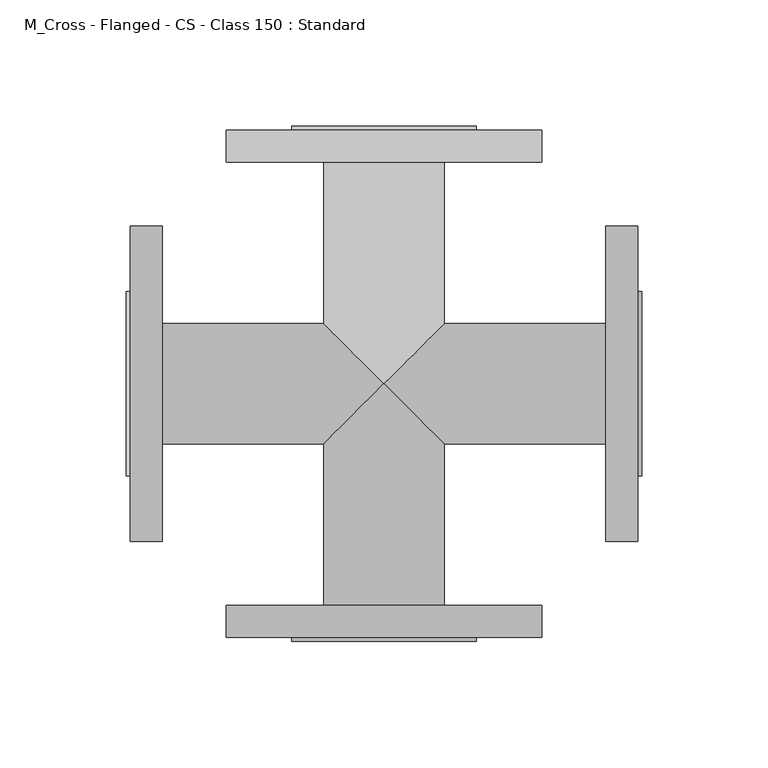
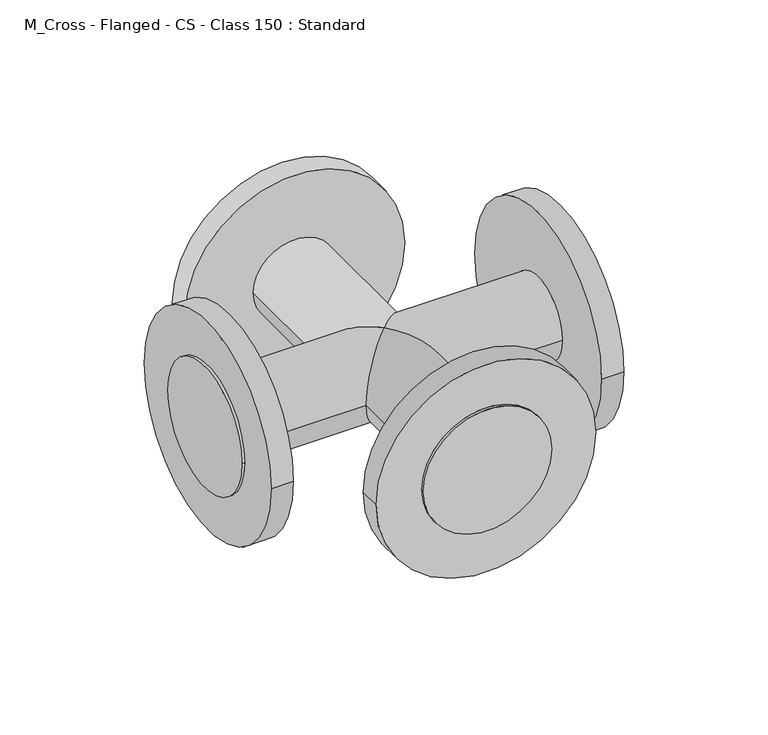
"""IFC4 building model written with IfcOpenShell, lengths in millimetres: pipe fitting geometry, M_Cross - Flanged - CS - Class 150 : Standard."""

import ifcopenshell
import ifcopenshell.guid

model = None  # the IFC model being written
_history = None  # IfcOwnerHistory: only IFC2X3 demands one
_inside = {}  # id of a spatial element -> (the spatial element, [elements in it])
_under = {}  # id of a project, library or spatial element -> (it, [spatial elements below it])
_declared = {}  # id of a project -> (the project, [libraries it declares])
_typed = {}  # id of a type object -> (the type object, [elements of that type])
_made_of = {}  # id of a material, layer set ... -> (it, [elements and type objects made of it])


def new_model(schema):
    """Start an empty IFC model of exactly this schema.

    Asked for "IFC4X3", IfcOpenShell would pick the latest addendum, in which some entities
    have other attributes; the version numbers below select the first issue.
    IFC2X3 requires an IfcOwnerHistory on every rooted entity: one is made here for all.
    """
    global model, _history
    if schema == "IFC4X3":
        model = ifcopenshell.file(schema_version=(4, 3, 0, 0))
    else:
        model = ifcopenshell.file(schema=schema)
    _inside.clear()
    _under.clear()
    _declared.clear()
    _typed.clear()
    _made_of.clear()
    _history = None
    if model.schema == "IFC2X3":
        org = make("IfcOrganization", Name="unknown")
        user = make(
            "IfcPersonAndOrganization",
            ThePerson=make("IfcPerson", FamilyName="unknown"),
            TheOrganization=org,
        )
        app = make(
            "IfcApplication",
            ApplicationDeveloper=org,
            Version="unknown",
            ApplicationFullName="unknown",
            ApplicationIdentifier="unknown",
        )
        _history = make(
            "IfcOwnerHistory",
            OwningUser=user,
            OwningApplication=app,
            ChangeAction="ADDED",
            CreationDate=0,
        )
    return model


def make(cls, **values):
    """One entity of the class cls with the attributes given. An attribute that is None is left unset."""
    return model.create_entity(
        cls, **{name: value for name, value in values.items() if value is not None}
    )


def rooted(cls, **values):
    """An entity with a GlobalId (a new one), such as an element, a storey or a relation."""
    return make(cls, GlobalId=ifcopenshell.guid.new(), OwnerHistory=_history, **values)


def si_unit(unit_type, name, prefix=None):
    """IfcSIUnit, for example si_unit("LENGTHUNIT", "METRE", prefix="MILLI")."""
    return make("IfcSIUnit", UnitType=unit_type, Prefix=prefix, Name=name)


def assignment(units):
    """IfcUnitAssignment: the units of a project."""
    return None if units is None else make("IfcUnitAssignment", Units=units)


def point(xyz):
    """IfcCartesianPoint."""
    return None if xyz is None else make("IfcCartesianPoint", Coordinates=xyz)


def direction(xyz):
    """IfcDirection."""
    return None if xyz is None else make("IfcDirection", DirectionRatios=xyz)


def frame(location, z_axis=None, x_axis=None):
    """IfcAxis2Placement3D, a coordinate frame: its origin and axes. An axis left out is left unset."""
    return make(
        "IfcAxis2Placement3D",
        Location=point(location),
        Axis=direction(z_axis),
        RefDirection=direction(x_axis),
    )


def origin():
    """The frame at (0, 0, 0) with its axes left unset."""
    return frame((0.0, 0.0, 0.0))


def place(relative_to, where):
    """IfcLocalPlacement: puts the frame where relative to a parent placement (None: the world)."""
    return make(
        "IfcLocalPlacement", PlacementRelTo=relative_to, RelativePlacement=where
    )


def context(
    kind, dimensions, precision=None, world=None, true_north=None, identifier=None
):
    """IfcGeometricRepresentationContext, for example the 3D "Model" context."""
    return make(
        "IfcGeometricRepresentationContext",
        ContextIdentifier=identifier,
        ContextType=kind,
        CoordinateSpaceDimension=dimensions,
        Precision=precision,
        WorldCoordinateSystem=world,
        TrueNorth=true_north,
    )


def project(units=None, contexts=None):
    """IfcProject with its units and contexts."""
    return rooted(
        "IfcProject",
        Name="project",
        RepresentationContexts=contexts,
        UnitsInContext=assignment(units),
    )


def spatial(cls, under=None, at=None, **own):
    """A site, building, storey or space (cls), placed at a placement, below another one or the project."""
    s = rooted(cls, ObjectPlacement=at, **own)
    if under is not None:
        _under.setdefault(under.id(), (under, []))[1].append(s)
    return s


def circle_curve(where, radius):
    """IfcCircle in the frame where."""
    return make("IfcCircle", Position=where, Radius=radius)


def ellipse_curve(where, semi_axis1, semi_axis2):
    """IfcEllipse in the frame where."""
    return make(
        "IfcEllipse", Position=where, SemiAxis1=semi_axis1, SemiAxis2=semi_axis2
    )


def shape(context_of_items, identifier, shape_type, items):
    """IfcShapeRepresentation: the items that make up one representation, for example the "Body"."""
    return make(
        "IfcShapeRepresentation",
        ContextOfItems=context_of_items,
        RepresentationIdentifier=identifier,
        RepresentationType=shape_type,
        Items=items,
    )


def source(mapping_origin, context_of_items, identifier, shape_type, items):
    """IfcRepresentationMap: a shape defined once, which mapped items show again and again."""
    return make(
        "IfcRepresentationMap",
        MappingOrigin=mapping_origin,
        MappedRepresentation=shape(context_of_items, identifier, shape_type, items),
    )


def transform(
    local_origin,
    x_axis=None,
    y_axis=None,
    z_axis=None,
    scale=None,
    scale2=None,
    scale3=None,
    uniform=True,
):
    """IfcCartesianTransformationOperator3D, or its non-uniform kind. x_axis, y_axis, z_axis: its Axis1, 2, 3."""
    if uniform:
        return make(
            "IfcCartesianTransformationOperator3D",
            Axis1=direction(x_axis),
            Axis2=direction(y_axis),
            LocalOrigin=point(local_origin),
            Scale=scale,
            Axis3=direction(z_axis),
        )
    return make(
        "IfcCartesianTransformationOperator3DnonUniform",
        Axis1=direction(x_axis),
        Axis2=direction(y_axis),
        LocalOrigin=point(local_origin),
        Scale=scale,
        Axis3=direction(z_axis),
        Scale2=scale2,
        Scale3=scale3,
    )


def mapped(mapping_source, mapping_target):
    """IfcMappedItem: shows the shape of a source again, moved by a transform."""
    return make(
        "IfcMappedItem", MappingSource=mapping_source, MappingTarget=mapping_target
    )


def made_of(thing, what):
    """Note that an element or type object is made of a material, layer set ...; save() writes the relation."""
    if what is not None:
        _made_of.setdefault(what.id(), (what, []))[1].append(thing)
    return thing


def element(
    cls,
    number,
    at=None,
    inside=None,
    cuts=None,
    type_object=None,
    material=None,
    context=None,
    identifier="Body",
    shape_type=None,
    held_by="IfcProductDefinitionShape",
    body=None,
    shapes=None,
    **own,
):
    """One element of the class cls, such as IfcWall. Its Tag is "e" and its number.

    at: its placement. inside: the storey or other place that contains it. cuts: it is an
    opening in that element (IfcRelVoidsElement). A single representation is given by context,
    identifier, shape_type and body (its items); several are given by shapes. held_by: the class
    of the entity that holds the representations. save() writes the other relations.
    """
    e = rooted(cls, Tag="e%d" % number, ObjectPlacement=at, **own)
    if body is not None:
        shapes = [shape(context, identifier, shape_type, body)]
    if shapes is not None:
        e.Representation = make(held_by, Representations=shapes)
    if inside is not None:
        _inside.setdefault(inside.id(), (inside, []))[1].append(e)
    if cuts is not None:
        rooted(
            "IfcRelVoidsElement", RelatingBuildingElement=cuts, RelatedOpeningElement=e
        )
    if type_object is not None:
        _typed.setdefault(type_object.id(), (type_object, []))[1].append(e)
    return made_of(e, material)


def aggregate(whole, parts):
    """IfcRelAggregates: a whole, such as a stair, and the parts it consists of."""
    return rooted("IfcRelAggregates", RelatingObject=whole, RelatedObjects=parts)


def save(model, path):
    """Write the relations noted so far, then the file.

    IfcRelAggregates (storeys below a building ...), IfcRelContainedInSpatialStructure (elements
    in a storey), IfcRelDefinesByType, IfcRelAssociatesMaterial and IfcRelDeclares: one each for
    every whole, place, type object, material and project.
    """
    for whole, parts in _under.values():
        aggregate(whole, parts)
    for where, things in _inside.values():
        rooted(
            "IfcRelContainedInSpatialStructure",
            RelatedElements=things,
            RelatingStructure=where,
        )
    for kind, things in _typed.values():
        rooted("IfcRelDefinesByType", RelatedObjects=things, RelatingType=kind)
    for what, things in _made_of.values():
        rooted("IfcRelAssociatesMaterial", RelatedObjects=things, RelatingMaterial=what)
    for by, libraries in _declared.values():
        rooted("IfcRelDeclares", RelatingContext=by, RelatedDefinitions=libraries)
    model.write(path)


def plane_surface(at):
    """IfcPlane: the flat surface through the origin of the frame at, square to its z axis."""
    return make("IfcPlane", Position=at)


def cylinder_surface(at, radius):
    """IfcCylindricalSurface: all points at the distance radius from the z axis of the frame at."""
    return make("IfcCylindricalSurface", Position=at, Radius=radius)


def advanced_brep(points, edges, surfaces, faces):
    """IfcAdvancedBrep: a solid bounded by faces that lie on surfaces and meet in shared edges.

    An edge is (start, end): straight between two places in points (the first is 0);
    or (start, end, curve); or (start, end, curve, False) where it runs against its curve.
    A face is (place in surfaces, loops), or (place, loops, False) where it looks against
    its surface's normal. A loop lists edges by number (the first is 1), with a minus sign
    where the edge is run from its end to its start. The first loop is the outer one.
    """
    corners = [point(p) for p in points]
    vertices = [make("IfcVertexPoint", VertexGeometry=c) for c in corners]
    made = []
    for start, end, *more in edges:
        made.append(
            make(
                "IfcEdgeCurve",
                EdgeStart=vertices[start],
                EdgeEnd=vertices[end],
                EdgeGeometry=more[0] if more else make("IfcPolyline", Points=[corners[start], corners[end]]),
                SameSense=more[1] if len(more) > 1 else True,
            )
        )
    hull = []
    for where, loops, *sense in faces:
        bounds = []
        for j, loop in enumerate(loops):
            ring = [make("IfcOrientedEdge", EdgeElement=made[abs(k) - 1], Orientation=k > 0) for k in loop]
            bounds.append(
                make(
                    "IfcFaceOuterBound" if j == 0 else "IfcFaceBound",
                    Bound=make("IfcEdgeLoop", EdgeList=ring),
                    Orientation=True,
                )
            )
        hull.append(make("IfcAdvancedFace", Bounds=bounds, FaceSurface=surfaces[where], SameSense=sense[0] if sense else True))
    return make("IfcAdvancedBrep", Outer=make("IfcClosedShell", CfsFaces=hull))


def m_cross_flanged_cs_class_150_standard_fc817054(model_context):
    return source(origin(), model_context, "Body", "AdvancedBrep", [
        advanced_brep(
        [(62.5, 87.7125, 0.0), (-62.5, 87.7125, 0.0), (-23.8, 87.7125, 0.0), (23.8, 87.7125, 0.0), (62.5, 100.4125, 0.0), (-62.5, 100.4125, 0.0), (36.5, 100.4125, 0.0), (-36.5, 100.4125, 0.0), (-23.8, 23.8, 0.0), (0.0, 0.0, 23.8), (23.8, 23.8, 0.0), (0.0, 0.0, -23.8), (36.5, 102.0, 0.0), (-36.5, 102.0, 0.0), (-23.8, -87.7125, 0.0), (23.8, -87.7125, 0.0), (23.8, -23.8, 0.0), (-23.8, -23.8, 0.0), (-62.5, -87.7125, 0.0), (62.5, -87.7125, 0.0), (-62.5, -100.4125, 0.0), (62.5, -100.4125, 0.0), (-36.5, -100.4125, 0.0), (36.5, -100.4125, 0.0), (-36.5, -102.0, 0.0), (36.5, -102.0, 0.0), (87.7125, 23.8, 0.0), (87.7125, -23.8, 0.0), (-87.7125, 23.8, 0.0), (-87.7125, -23.8, 0.0), (-100.4125, -62.5, 0.0), (-100.4125, 62.5, 0.0), (-100.4125, 36.5, 0.0), (-100.4125, -36.5, 0.0), (-87.7125, -62.5, 0.0), (-87.7125, 62.5, 0.0), (87.7125, -62.5, 0.0), (87.7125, 62.5, 0.0), (100.4125, -62.5, 0.0), (100.4125, 62.5, 0.0), (100.4125, -36.5, 0.0), (100.4125, 36.5, 0.0), (102.0, -36.5, 0.0), (102.0, 36.5, 0.0), (-102.0, 36.5, 0.0), (-102.0, -36.5, 0.0)],
        [
            (0, 1, circle_curve(frame((0.0, 87.7125, 0.0), z_axis=(0.0, -1.0, 0.0), x_axis=(-1.0, 0.0, 0.0)), 62.5)),
            (1, 0, circle_curve(frame((0.0, 87.7125, 0.0), z_axis=(0.0, -1.0, 0.0), x_axis=(-1.0, 0.0, 0.0)), 62.5)),
            (2, 3, circle_curve(frame((0.0, 87.7125, 0.0), z_axis=(0.0, 1.0, 0.0), x_axis=(-1.0, 0.0, 0.0)), 23.8)),
            (3, 2, circle_curve(frame((0.0, 87.7125, 0.0), z_axis=(0.0, 1.0, 0.0), x_axis=(-1.0, 0.0, 0.0)), 23.8)),
            (4, 5, circle_curve(frame((0.0, 100.4125, 0.0), z_axis=(0.0, 1.0, 0.0), x_axis=(-1.0, 0.0, 0.0)), 62.5)),
            (5, 4, circle_curve(frame((0.0, 100.4125, 0.0), z_axis=(0.0, 1.0, 0.0), x_axis=(-1.0, 0.0, 0.0)), 62.5)),
            (6, 7, circle_curve(frame((0.0, 100.4125, 0.0), z_axis=(0.0, -1.0, 0.0), x_axis=(-1.0, 0.0, 0.0)), 36.5)),
            (7, 6, circle_curve(frame((0.0, 100.4125, 0.0), z_axis=(0.0, -1.0, 0.0), x_axis=(-1.0, 0.0, 0.0)), 36.5)),
            (0, 4),
            (5, 1),
            (2, 8),
            (8, 9, ellipse_curve(frame((0.0, 0.0, 0.0), z_axis=(0.707106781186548, 0.7071067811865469, 0.0), x_axis=(0.7071067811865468, -0.7071067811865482, 0.0)), 33.6582828, 23.8)),
            (9, 10, ellipse_curve(frame((0.0, 0.0, 0.0), z_axis=(-0.7071067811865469, 0.7071067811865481, 0.0), x_axis=(-0.7071067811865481, -0.7071067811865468, 0.0)), 33.6582828, 23.8)),
            (10, 3),
            (10, 11, ellipse_curve(frame((0.0, 0.0, 0.0), z_axis=(-0.7071067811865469, 0.7071067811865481, 0.0), x_axis=(-0.7071067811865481, -0.7071067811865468, 0.0)), 33.6582828, 23.8)),
            (11, 8, ellipse_curve(frame((0.0, 0.0, 0.0), z_axis=(0.707106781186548, 0.7071067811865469, 0.0), x_axis=(0.7071067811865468, -0.7071067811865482, 0.0)), 33.6582828, 23.8)),
            (12, 13, circle_curve(frame((0.0, 102.0, 0.0), z_axis=(0.0, 1.0, 0.0), x_axis=(-1.0, 0.0, 0.0)), 36.5)),
            (13, 12, circle_curve(frame((0.0, 102.0, 0.0), z_axis=(0.0, 1.0, 0.0), x_axis=(-1.0, 0.0, 0.0)), 36.5)),
            (13, 7),
            (6, 12),
            (14, 15, circle_curve(frame((0.0, -87.7125, 0.0), z_axis=(0.0, 1.0, 0.0), x_axis=(1.0, 0.0, 0.0)), 23.8)),
            (15, 16),
            (16, 9, ellipse_curve(frame((0.0, 0.0, 0.0), z_axis=(-0.7071067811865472, -0.7071067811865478, 0.0), x_axis=(-0.7071067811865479, 0.7071067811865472, 0.0)), 33.6582828, 23.8)),
            (9, 17, ellipse_curve(frame((0.0, 0.0, 0.0), z_axis=(0.7071067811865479, -0.7071067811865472, 0.0), x_axis=(0.7071067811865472, 0.7071067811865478, 0.0)), 33.6582828, 23.8)),
            (17, 14),
            (15, 14, circle_curve(frame((0.0, -87.7125, 0.0), z_axis=(0.0, 1.0, 0.0), x_axis=(1.0, 0.0, 0.0)), 23.8)),
            (17, 11, ellipse_curve(frame((0.0, 0.0, 0.0), z_axis=(0.7071067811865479, -0.7071067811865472, 0.0), x_axis=(0.7071067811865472, 0.7071067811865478, 0.0)), 33.6582828, 23.8)),
            (11, 16, ellipse_curve(frame((0.0, 0.0, 0.0), z_axis=(-0.7071067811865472, -0.7071067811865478, 0.0), x_axis=(-0.7071067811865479, 0.7071067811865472, 0.0)), 33.6582828, 23.8)),
            (18, 19, circle_curve(frame((0.0, -87.7125, 0.0), z_axis=(0.0, 1.0, 0.0), x_axis=(1.0, 0.0, 0.0)), 62.5)),
            (19, 18, circle_curve(frame((0.0, -87.7125, 0.0), z_axis=(0.0, 1.0, 0.0), x_axis=(1.0, 0.0, 0.0)), 62.5)),
            (20, 21, circle_curve(frame((0.0, -100.4125, 0.0), z_axis=(0.0, -1.0, 0.0), x_axis=(1.0, 0.0, 0.0)), 62.5)),
            (21, 20, circle_curve(frame((0.0, -100.4125, 0.0), z_axis=(0.0, -1.0, 0.0), x_axis=(1.0, 0.0, 0.0)), 62.5)),
            (22, 23, circle_curve(frame((0.0, -100.4125, 0.0), z_axis=(0.0, 1.0, 0.0), x_axis=(1.0, 0.0, 0.0)), 36.5)),
            (23, 22, circle_curve(frame((0.0, -100.4125, 0.0), z_axis=(0.0, 1.0, 0.0), x_axis=(1.0, 0.0, 0.0)), 36.5)),
            (18, 20),
            (21, 19),
            (24, 25, circle_curve(frame((0.0, -102.0, 0.0), z_axis=(0.0, -1.0, 0.0), x_axis=(1.0, 0.0, 0.0)), 36.5)),
            (25, 24, circle_curve(frame((0.0, -102.0, 0.0), z_axis=(0.0, -1.0, 0.0), x_axis=(1.0, 0.0, 0.0)), 36.5)),
            (25, 23),
            (22, 24),
            (26, 10),
            (16, 27),
            (27, 26, circle_curve(frame((87.7125, 0.0, 0.0), z_axis=(-1.0, 0.0, 0.0), x_axis=(0.0, 1.0, 0.0)), 23.8)),
            (26, 27, circle_curve(frame((87.7125, 0.0, 0.0), z_axis=(-1.0, 0.0, 0.0), x_axis=(0.0, 1.0, 0.0)), 23.8)),
            (8, 28),
            (28, 29, circle_curve(frame((-87.7125, 0.0, 0.0), z_axis=(1.0, 0.0, 0.0), x_axis=(0.0, 1.0, 0.0)), 23.8)),
            (29, 17),
            (29, 28, circle_curve(frame((-87.7125, 0.0, 0.0), z_axis=(1.0, 0.0, 0.0), x_axis=(0.0, 1.0, 0.0)), 23.8)),
            (30, 31, circle_curve(frame((-100.4125, 0.0, 0.0), z_axis=(-1.0, 0.0, 0.0), x_axis=(0.0, 1.0, 0.0)), 62.5)),
            (31, 30, circle_curve(frame((-100.4125, 0.0, 0.0), z_axis=(-1.0, 0.0, 0.0), x_axis=(0.0, 1.0, 0.0)), 62.5)),
            (32, 33, circle_curve(frame((-100.4125, 0.0, 0.0), z_axis=(1.0, 0.0, 0.0), x_axis=(0.0, -1.0, 0.0)), 36.5)),
            (33, 32, circle_curve(frame((-100.4125, 0.0, 0.0), z_axis=(1.0, 0.0, 0.0), x_axis=(0.0, -1.0, 0.0)), 36.5)),
            (34, 35, circle_curve(frame((-87.7125, 0.0, 0.0), z_axis=(1.0, 0.0, 0.0), x_axis=(0.0, 1.0, 0.0)), 62.5)),
            (35, 34, circle_curve(frame((-87.7125, 0.0, 0.0), z_axis=(1.0, 0.0, 0.0), x_axis=(0.0, 1.0, 0.0)), 62.5)),
            (30, 34),
            (35, 31),
            (36, 37, circle_curve(frame((87.7125, 0.0, 0.0), z_axis=(-1.0, 0.0, 0.0), x_axis=(0.0, 1.0, 0.0)), 62.5)),
            (37, 36, circle_curve(frame((87.7125, 0.0, 0.0), z_axis=(-1.0, 0.0, 0.0), x_axis=(0.0, 1.0, 0.0)), 62.5)),
            (38, 39, circle_curve(frame((100.4125, 0.0, 0.0), z_axis=(1.0, 0.0, 0.0), x_axis=(0.0, 1.0, 0.0)), 62.5)),
            (39, 38, circle_curve(frame((100.4125, 0.0, 0.0), z_axis=(1.0, 0.0, 0.0), x_axis=(0.0, 1.0, 0.0)), 62.5)),
            (40, 41, circle_curve(frame((100.4125, 0.0, 0.0), z_axis=(-1.0, 0.0, 0.0), x_axis=(0.0, 1.0, 0.0)), 36.5)),
            (41, 40, circle_curve(frame((100.4125, 0.0, 0.0), z_axis=(-1.0, 0.0, 0.0), x_axis=(0.0, 1.0, 0.0)), 36.5)),
            (36, 38),
            (39, 37),
            (42, 43, circle_curve(frame((102.0, 0.0, 0.0), z_axis=(1.0, 0.0, 0.0), x_axis=(0.0, 1.0, 0.0)), 36.5)),
            (43, 42, circle_curve(frame((102.0, 0.0, 0.0), z_axis=(1.0, 0.0, 0.0), x_axis=(0.0, 1.0, 0.0)), 36.5)),
            (43, 41),
            (40, 42),
            (44, 45, circle_curve(frame((-102.0, 0.0, 0.0), z_axis=(-1.0, 0.0, 0.0), x_axis=(0.0, -1.0, 0.0)), 36.5)),
            (45, 44, circle_curve(frame((-102.0, 0.0, 0.0), z_axis=(-1.0, 0.0, 0.0), x_axis=(0.0, -1.0, 0.0)), 36.5)),
            (45, 33),
            (32, 44),
        ],
        [
            plane_surface(frame((0.0, 87.7125, 0.0), z_axis=(0.0, -1.0, 0.0), x_axis=(0.0, 0.0, 1.0))),
            plane_surface(frame((0.0, 100.4125, 0.0), z_axis=(0.0, 1.0, 0.0), x_axis=(0.0, 0.0, 1.0))),
            cylinder_surface(frame((0.0, 87.7125, 0.0), z_axis=(0.0, -1.0, 0.0), x_axis=(-1.0, 0.0, 0.0)), 62.5),
            cylinder_surface(frame((0.0, 0.0, 0.0), z_axis=(0.0, -1.0, 0.0), x_axis=(-1.0, 0.0, 0.0)), 23.8),
            plane_surface(frame((0.0, 102.0, 0.0), z_axis=(0.0, 1.0, 0.0), x_axis=(0.0, 0.0, 1.0))),
            cylinder_surface(frame((0.0, 100.4125, 0.0), z_axis=(0.0, -1.0, 0.0), x_axis=(-1.0, 0.0, 0.0)), 36.5),
            cylinder_surface(frame((0.0, 0.0, 0.0), z_axis=(0.0, 1.0, 0.0), x_axis=(1.0, 0.0, 0.0)), 23.8),
            plane_surface(frame((0.0, -87.7125, 0.0), z_axis=(0.0, 1.0, 0.0), x_axis=(0.0, 0.0, 1.0))),
            plane_surface(frame((0.0, -100.4125, 0.0), z_axis=(0.0, -1.0, 0.0), x_axis=(0.0, 0.0, 1.0))),
            cylinder_surface(frame((0.0, -87.7125, 0.0), z_axis=(0.0, 1.0, 0.0), x_axis=(1.0, 0.0, 0.0)), 62.5),
            plane_surface(frame((0.0, -102.0, 0.0), z_axis=(0.0, -1.0, 0.0), x_axis=(0.0, 0.0, 1.0))),
            cylinder_surface(frame((0.0, -100.4125, 0.0), z_axis=(0.0, 1.0, 0.0), x_axis=(1.0, 0.0, 0.0)), 36.5),
            cylinder_surface(frame((0.0, 0.0, 0.0), z_axis=(-1.0, 0.0, 0.0), x_axis=(0.0, 1.0, 0.0)), 23.8),
            cylinder_surface(frame((-87.7125, 0.0, 0.0), z_axis=(-1.0, 0.0, 0.0), x_axis=(0.0, 1.0, 0.0)), 23.8),
            plane_surface(frame((-100.4125, 0.0, 0.0), z_axis=(-1.0, 0.0, 0.0), x_axis=(0.0, 0.0, 1.0))),
            plane_surface(frame((-87.7125, 0.0, 0.0), z_axis=(1.0, 0.0, 0.0), x_axis=(0.0, 0.0, 1.0))),
            cylinder_surface(frame((-100.4125, 0.0, 0.0), z_axis=(-1.0, 0.0, 0.0), x_axis=(0.0, 1.0, 0.0)), 62.5),
            plane_surface(frame((87.7125, 0.0, 0.0), z_axis=(-1.0, 0.0, 0.0), x_axis=(0.0, 0.0, 1.0))),
            plane_surface(frame((100.4125, 0.0, 0.0), z_axis=(1.0, 0.0, 0.0), x_axis=(0.0, 0.0, 1.0))),
            cylinder_surface(frame((87.7125, 0.0, 0.0), z_axis=(-1.0, 0.0, 0.0), x_axis=(0.0, 1.0, 0.0)), 62.5),
            plane_surface(frame((102.0, 0.0, 0.0), z_axis=(1.0, 0.0, 0.0), x_axis=(0.0, 0.0, 1.0))),
            cylinder_surface(frame((100.4125, 0.0, 0.0), z_axis=(-1.0, 0.0, 0.0), x_axis=(0.0, 1.0, 0.0)), 36.5),
            plane_surface(frame((-102.0, 0.0, 0.0), z_axis=(-1.0, 0.0, 0.0), x_axis=(0.0, 0.0, 1.0))),
            cylinder_surface(frame((-100.4125, 0.0, 0.0), z_axis=(1.0, 0.0, 0.0), x_axis=(0.0, -1.0, 0.0)), 36.5),
        ],
        [
            (0, [[1, 2], [3, 4]]),
            (1, [[5, 6], [7, 8]]),
            (2, [[-1, 9, -6, 10]]),
            (2, [[-2, -10, -5, -9]]),
            (3, [[-3, 11, 12, 13, 14]]),
            (3, [[-4, -14, 15, 16, -11]]),
            (4, [[17, 18]]),
            (5, [[-18, 19, -7, 20]]),
            (5, [[-17, -20, -8, -19]]),
            (6, [[21, 22, 23, 24, 25]]),
            (6, [[26, -25, 27, 28, -22]]),
            (7, [[29, 30], [-21, -26]]),
            (8, [[31, 32], [33, 34]]),
            (9, [[-29, 35, -32, 36]]),
            (9, [[-30, -36, -31, -35]]),
            (10, [[37, 38]]),
            (11, [[-38, 39, -33, 40]]),
            (11, [[-37, -40, -34, -39]]),
            (12, [[41, -13, -23, 42, 43]]),
            (12, [[-41, 44, -42, -28, -15]]),
            (13, [[45, 46, 47, -24, -12]]),
            (13, [[-45, -16, -27, -47, 48]]),
            (14, [[49, 50], [51, 52]]),
            (15, [[53, 54], [-46, -48]]),
            (16, [[-49, 55, -54, 56]]),
            (16, [[-50, -56, -53, -55]]),
            (17, [[57, 58], [-43, -44]]),
            (18, [[59, 60], [61, 62]]),
            (19, [[-57, 63, -60, 64]]),
            (19, [[-58, -64, -59, -63]]),
            (20, [[65, 66]]),
            (21, [[-66, 67, -61, 68]]),
            (21, [[-65, -68, -62, -67]]),
            (22, [[69, 70]]),
            (23, [[-70, 71, -51, 72]]),
            (23, [[-69, -72, -52, -71]]),
        ],
    ),
    ])


if __name__ == "__main__":
    model = new_model("IFC4")
    model_context = context("Model", 3, world=origin())
    ifc_project = project(units=[si_unit("LENGTHUNIT", "METRE", prefix="MILLI")], contexts=[model_context])
    site = spatial("IfcSite", under=ifc_project)
    building = spatial("IfcBuilding", under=site)
    placement = place(None, origin())
    m_cross_flanged_cs_class_150_standard_shape = m_cross_flanged_cs_class_150_standard_fc817054(model_context)
    element("IfcPipeFitting", 1, ObjectType="M_Cross - Flanged - CS - Class 150 : Standard", at=placement, inside=building, context=model_context, shape_type="MappedRepresentation", body=[
        mapped(m_cross_flanged_cs_class_150_standard_shape, transform((0.0, 0.0, 0.0), x_axis=(1.0, 0.0, 0.0), y_axis=(0.0, 1.0, 0.0), z_axis=(0.0, 0.0, 1.0))),
    ])
    save(model, "model.ifc")
